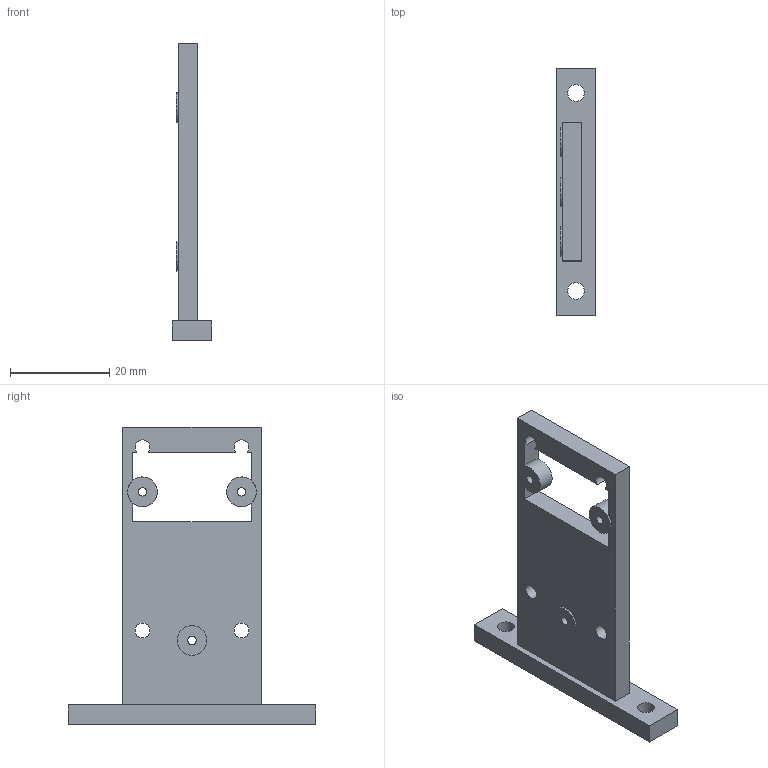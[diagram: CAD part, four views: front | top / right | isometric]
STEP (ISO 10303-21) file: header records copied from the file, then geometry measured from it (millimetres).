
FILE_DESCRIPTION(('Open CASCADE Model'),'2;1');
FILE_NAME('Open CASCADE Shape Model','2026-10-05T13:24:20',('Author'),( 'Open CASCADE'),'Open CASCADE STEP processor 7.8','Open CASCADE 7.8' ,'Unknown');
FILE_SCHEMA(('AUTOMOTIVE_DESIGN { 1 0 10303 214 1 1 1 1 }'));
Length unit declared in the file: millimetre
Products named in the file (1): Open CASCADE STEP translator 7.8 10
Bounding box: 8 x 50 x 60 mm (x, y, z)
Volume: 6508 mm3; surface area: 4813.9 mm2
Topology: 1 solids, 1 shells, 34 faces, 90 edges, 60 vertices
Faces by surface type: plane 22, cylinder 12
Full cylindrical faces by diameter (mm): 1.7 x3, 3 x2, 3.4 x2, 6 x3
Entity records: 2329 total; most frequent: CARTESIAN_POINT 499, DIRECTION 339, LINE 206, VECTOR 206, ORIENTED_EDGE 180, PCURVE 180, DEFINITIONAL_REPRESENTATION 180, EDGE_CURVE 90
